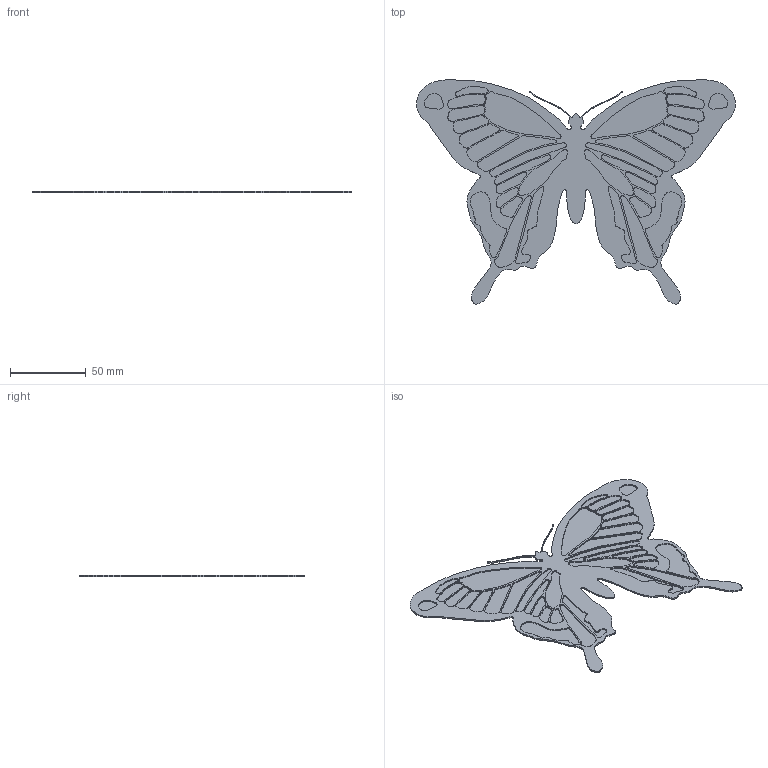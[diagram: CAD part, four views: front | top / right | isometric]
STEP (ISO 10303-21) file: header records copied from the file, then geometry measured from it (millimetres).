
FILE_DESCRIPTION(/* description */ (''),/* implementation_level */ '2;1');
FILE_NAME(/* name */ 'vleugels.stp',/* time_stamp */ '2024-01-26T19:35:48+01:00',/* author */ (''),/* organization */ (''),/* preprocessor_version */ 'ST-DEVELOPER v16',/* originating_system */ 'SIEMENS PLM Software NX 10.0',/* authorisation */ '');
FILE_SCHEMA (('AP203_CONFIGURATION_CONTROLLED_3D_DESIGN_OF_MECHANICAL_PARTS_AND_ASSEMBLIES_MIM_LF { 1 0 10303 403 2 1 2}'));
Length unit declared in the file: millimetre
Products named in the file (1): edwi1330EDF0vsni
Bounding box: 210.41 x 147.99 x 1 mm (x, y, z)
Volume: 4945.2 mm3; surface area: 39456.3 mm2
Topology: 1 solids, 1 shells, 116 faces, 234 edges, 156 vertices
Faces by surface type: bspline 76, plane 40
Entity records: 8698 total; most frequent: CARTESIAN_POINT 6701, ORIENTED_EDGE 468, EDGE_CURVE 234, DIRECTION 158, VERTEX_POINT 156, B_SPLINE_CURVE_WITH_KNOTS 156, EDGE_LOOP 152, ADVANCED_FACE 116
